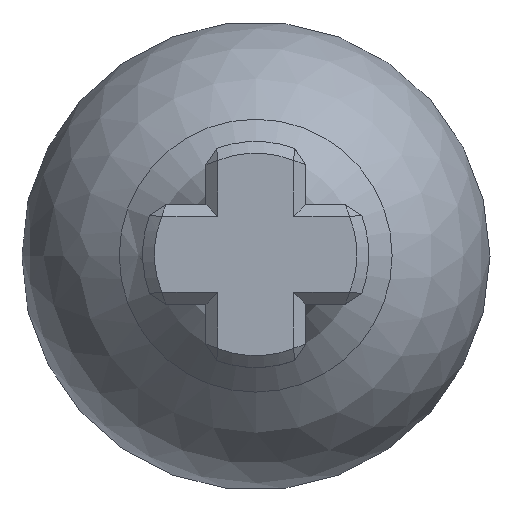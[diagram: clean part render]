
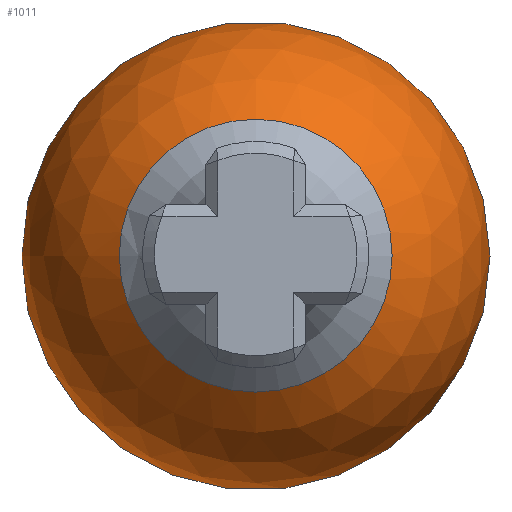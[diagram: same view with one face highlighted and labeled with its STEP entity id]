
A CAD part, top view. The second image highlights one B-rep face of the part: STEP entity #1011.
In plain terms, the highlighted spherical face has radius 5 mm.
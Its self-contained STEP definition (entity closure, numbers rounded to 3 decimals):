
#15=SPHERICAL_SURFACE('',#1109,5.);
#57=CIRCLE('',#1103,2.912);
#60=CIRCLE('',#1108,3.);
#61=CIRCLE('',#1110,5.);
#308=FACE_OUTER_BOUND('',#377,.T.);
#377=EDGE_LOOP('',(#929,#930,#931,#932));
#495=VERTEX_POINT('',#2027);
#497=VERTEX_POINT('',#2035);
#637=EDGE_CURVE('',#495,#495,#57,.T.);
#641=EDGE_CURVE('',#497,#497,#60,.T.);
#642=EDGE_CURVE('',#495,#497,#61,.T.);
#929=ORIENTED_EDGE('',*,*,#637,.F.);
#930=ORIENTED_EDGE('',*,*,#642,.T.);
#931=ORIENTED_EDGE('',*,*,#641,.T.);
#932=ORIENTED_EDGE('',*,*,#642,.F.);
#1011=ADVANCED_FACE('',(#308),#15,.T.);
#1103=AXIS2_PLACEMENT_3D('',#2028,#1329,#1330);
#1108=AXIS2_PLACEMENT_3D('',#2036,#1340,#1341);
#1109=AXIS2_PLACEMENT_3D('',#2037,#1342,#1343);
#1110=AXIS2_PLACEMENT_3D('',#2038,#1344,#1345);
#1329=DIRECTION('center_axis',(0.,0.,1.));
#1330=DIRECTION('ref_axis',(1.,0.,0.));
#1340=DIRECTION('center_axis',(0.,0.,1.));
#1341=DIRECTION('ref_axis',(1.,0.,0.));
#1342=DIRECTION('center_axis',(0.,0.,1.));
#1343=DIRECTION('ref_axis',(1.,0.,0.));
#1344=DIRECTION('center_axis',(0.,-1.,0.));
#1345=DIRECTION('ref_axis',(-1.,0.,0.));
#2027=CARTESIAN_POINT('',(-2.912,0.,10.604));
#2028=CARTESIAN_POINT('Origin',(0.,0.,10.604));
#2035=CARTESIAN_POINT('',(-3.,0.,2.539));
#2036=CARTESIAN_POINT('Origin',(0.,0.,2.539));
#2037=CARTESIAN_POINT('Origin',(0.,0.,6.539));
#2038=CARTESIAN_POINT('Origin',(0.,0.,6.539));
